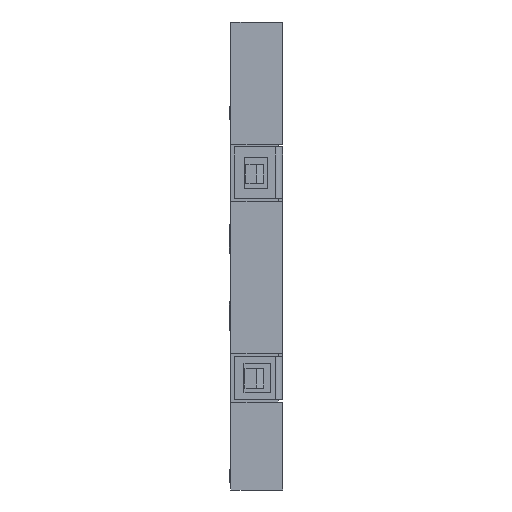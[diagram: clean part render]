
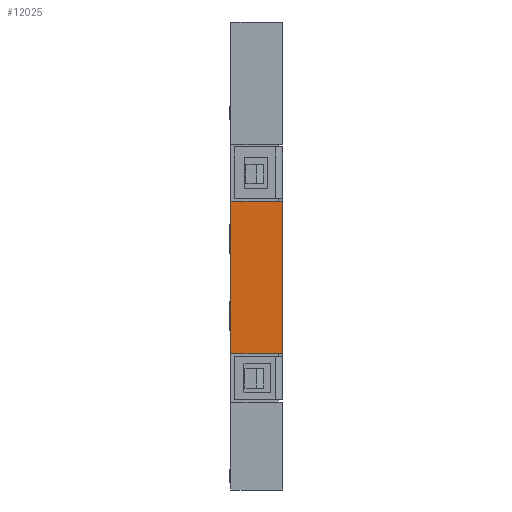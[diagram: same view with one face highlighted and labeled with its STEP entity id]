
A CAD part, front view. The second image highlights one B-rep face of the part: STEP entity #12025.
In plain terms, the highlighted planar face has unit normal (0, -1, 0).
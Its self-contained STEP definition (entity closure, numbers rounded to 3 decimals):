
#169=DIRECTION('',(0.,0.,1.));
#170=VECTOR('',#169,5.3);
#171=CARTESIAN_POINT('',(0.,-8.2,4.75));
#172=LINE('',#171,#170);
#3385=DIRECTION('',(1.,0.,0.));
#3386=VECTOR('',#3385,0.15);
#3387=CARTESIAN_POINT('',(1.65,-8.2,10.05));
#3388=LINE('',#3387,#3386);
#3389=DIRECTION('',(1.,0.,0.));
#3390=VECTOR('',#3389,1.65);
#3391=CARTESIAN_POINT('',(0.,-8.2,10.05));
#3392=LINE('',#3391,#3390);
#3393=DIRECTION('',(1.,0.,0.));
#3394=VECTOR('',#3393,0.15);
#3395=CARTESIAN_POINT('',(1.65,-8.2,4.75));
#3396=LINE('',#3395,#3394);
#3397=DIRECTION('',(1.,0.,0.));
#3398=VECTOR('',#3397,1.65);
#3399=CARTESIAN_POINT('',(0.,-8.2,4.75));
#3400=LINE('',#3399,#3398);
#3401=DIRECTION('',(0.,0.,1.));
#3402=VECTOR('',#3401,5.3);
#3403=CARTESIAN_POINT('',(1.8,-8.2,4.75));
#3404=LINE('',#3403,#3402);
#6107=CARTESIAN_POINT('',(0.,-8.2,10.05));
#6108=VERTEX_POINT('',#6107);
#6109=CARTESIAN_POINT('',(1.65,-8.2,10.05));
#6110=VERTEX_POINT('',#6109);
#6111=CARTESIAN_POINT('',(1.8,-8.2,10.05));
#6112=VERTEX_POINT('',#6111);
#6113=CARTESIAN_POINT('',(1.8,-8.2,4.75));
#6115=VERTEX_POINT('',#6113);
#6117=CARTESIAN_POINT('',(1.65,-8.2,4.75));
#6118=VERTEX_POINT('',#6117);
#6119=CARTESIAN_POINT('',(0.,-8.2,4.75));
#6120=VERTEX_POINT('',#6119);
#12010=CARTESIAN_POINT('',(0.,-8.2,16.3));
#12011=DIRECTION('',(0.,-1.,0.));
#12012=DIRECTION('',(0.,0.,-1.));
#12013=AXIS2_PLACEMENT_3D('',#12010,#12011,#12012);
#12014=PLANE('',#12013);
#12016=ORIENTED_EDGE('',*,*,#12015,.F.);
#12018=ORIENTED_EDGE('',*,*,#12017,.F.);
#12019=ORIENTED_EDGE('',*,*,#7748,.T.);
#12020=ORIENTED_EDGE('',*,*,#12004,.T.);
#12021=ORIENTED_EDGE('',*,*,#12002,.T.);
#12022=ORIENTED_EDGE('',*,*,#9757,.F.);
#12023=EDGE_LOOP('',(#12016,#12018,#12019,#12020,#12021,#12022));
#12024=FACE_OUTER_BOUND('',#12023,.F.);
#7748=EDGE_CURVE('',#6120,#6108,#172,.T.);
#9757=EDGE_CURVE('',#6115,#6112,#3404,.T.);
#12002=EDGE_CURVE('',#6110,#6112,#3388,.T.);
#12004=EDGE_CURVE('',#6108,#6110,#3392,.T.);
#12015=EDGE_CURVE('',#6118,#6115,#3396,.T.);
#12017=EDGE_CURVE('',#6120,#6118,#3400,.T.);
#12025=ADVANCED_FACE('',(#12024),#12014,.T.);
